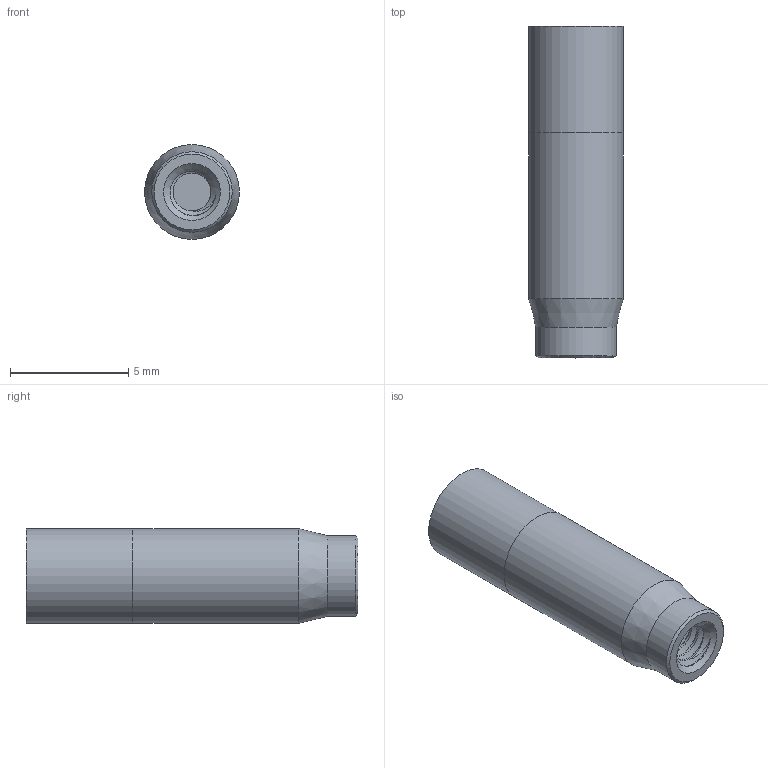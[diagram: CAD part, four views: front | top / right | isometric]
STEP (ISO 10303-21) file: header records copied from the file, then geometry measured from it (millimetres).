
FILE_DESCRIPTION (( 'STEP AP214' ), '1' );
FILE_NAME ('DAP-4.STEP', '2018-10-09T17:57:05', ( '' ), ( '' ), 'SwSTEP 2.0', 'SolidWorks 2017', '' );
FILE_SCHEMA (( 'AUTOMOTIVE_DESIGN' ));
Length unit declared in the file: millimetre
Products named in the file (1): DAP-4
Bounding box: 4 x 14.01 x 4 mm (x, y, z)
Volume: 148 mm3; surface area: 275.6 mm2
Topology: 2 solids, 2 shells, 91 faces, 233 edges, 154 vertices
Faces by surface type: plane 44, cylinder 41, cone 3, bspline 3
Full cylindrical faces by diameter (mm): 1.6 x7, 2.5 x1, 3.4 x1, 4 x2
Entity records: 3824 total; most frequent: CARTESIAN_POINT 1831, ORIENTED_EDGE 406, DIRECTION 298, EDGE_CURVE 203, VERTEX_POINT 139, LINE 110, VECTOR 110, EDGE_LOOP 102
